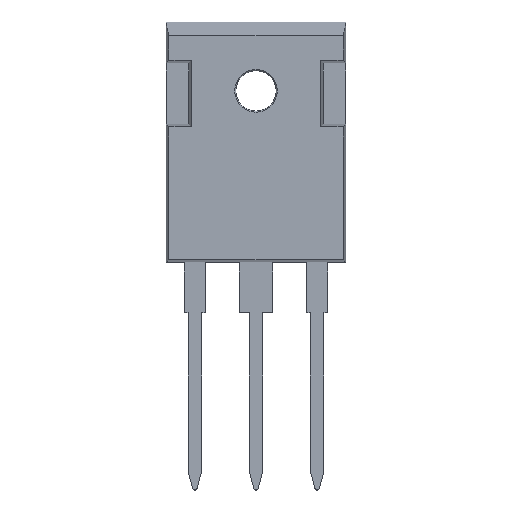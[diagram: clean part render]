
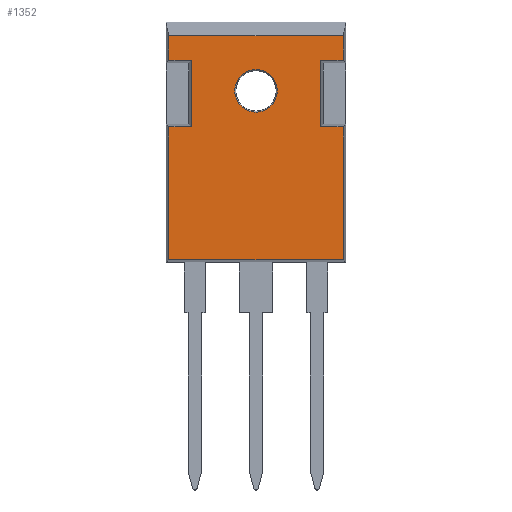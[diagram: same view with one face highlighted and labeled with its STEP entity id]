
A CAD part, top view. The second image highlights one B-rep face of the part: STEP entity #1352.
In plain terms, the highlighted planar face has unit normal (0, 0, 1).
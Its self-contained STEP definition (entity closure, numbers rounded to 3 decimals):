
#6 = EDGE_CURVE ( 'NONE', #1496, #2278, #1900, .T. ) ;
#116 = ORIENTED_EDGE ( 'NONE', *, *, #2493, .T. ) ;
#121 = DIRECTION ( 'NONE',  ( 0., 0., -1. ) ) ;
#122 = VECTOR ( 'NONE', #789, 1000. ) ;
#126 = LINE ( 'NONE', #2492, #2249 ) ;
#136 = CARTESIAN_POINT ( 'NONE',  ( 0., 19.81, 2.33 ) ) ;
#151 = LINE ( 'NONE', #2306, #1285 ) ;
#157 = CARTESIAN_POINT ( 'NONE',  ( 7.775, 16.588, 2.33 ) ) ;
#158 = CARTESIAN_POINT ( 'NONE',  ( 5.775, 22.532, 2.33 ) ) ;
#167 = DIRECTION ( 'NONE',  ( 0., -1., 0. ) ) ;
#186 = VECTOR ( 'NONE', #167, 1000. ) ;
#213 = CARTESIAN_POINT ( 'NONE',  ( 5.775, 16.588, 2.33 ) ) ;
#230 = CARTESIAN_POINT ( 'NONE',  ( -7.775, 22.532, 2.33 ) ) ;
#246 = FACE_BOUND ( 'NONE', #496, .T. ) ;
#254 = EDGE_CURVE ( 'NONE', #756, #2208, #126, .T. ) ;
#288 = VERTEX_POINT ( 'NONE', #1376 ) ;
#340 = ORIENTED_EDGE ( 'NONE', *, *, #1053, .T. ) ;
#344 = EDGE_LOOP ( 'NONE', ( #2809, #1343, #2244, #1671, #2104, #1473, #1572, #116, #1868, #1019, #340, #1004 ) ) ;
#355 = DIRECTION ( 'NONE',  ( 1., 0., 0. ) ) ;
#383 = CARTESIAN_POINT ( 'NONE',  ( -7.775, 0., 2.33 ) ) ;
#428 = EDGE_CURVE ( 'NONE', #2128, #822, #1020, .T. ) ;
#445 = EDGE_CURVE ( 'NONE', #1799, #2108, #1277, .T. ) ;
#455 = VECTOR ( 'NONE', #2508, 1000. ) ;
#471 = DIRECTION ( 'NONE',  ( -1., 0., 0. ) ) ;
#476 = CARTESIAN_POINT ( 'NONE',  ( 0., 0., 2.33 ) ) ;
#496 = EDGE_LOOP ( 'NONE', ( #1050, #2849 ) ) ;
#497 = VECTOR ( 'NONE', #1362, 1000. ) ;
#516 = EDGE_CURVE ( 'NONE', #1397, #1659, #606, .T. ) ;
#559 = CARTESIAN_POINT ( 'NONE',  ( -5.775, 16.588, 2.33 ) ) ;
#606 = LINE ( 'NONE', #621, #1029 ) ;
#609 = VECTOR ( 'NONE', #355, 1000. ) ;
#621 = CARTESIAN_POINT ( 'NONE',  ( 7.775, 0., 2.33 ) ) ;
#713 = CARTESIAN_POINT ( 'NONE',  ( -7.775, 4.727, 2.33 ) ) ;
#724 = VECTOR ( 'NONE', #1921, 1000. ) ;
#749 = LINE ( 'NONE', #1635, #455 ) ;
#756 = VERTEX_POINT ( 'NONE', #559 ) ;
#758 = DIRECTION ( 'NONE',  ( 1., 0., 0. ) ) ;
#778 = AXIS2_PLACEMENT_3D ( 'NONE', #136, #121, #2328 ) ;
#786 = CARTESIAN_POINT ( 'NONE',  ( -6.002, 22.532, 2.33 ) ) ;
#789 = DIRECTION ( 'NONE',  ( 0., 1., 0. ) ) ;
#822 = VERTEX_POINT ( 'NONE', #1201 ) ;
#922 = DIRECTION ( 'NONE',  ( 1., 0., 0. ) ) ;
#945 = CARTESIAN_POINT ( 'NONE',  ( -5.775, 16.815, 2.33 ) ) ;
#956 = VERTEX_POINT ( 'NONE', #157 ) ;
#996 = VECTOR ( 'NONE', #1899, 1000. ) ;
#1000 = CARTESIAN_POINT ( 'NONE',  ( 7.775, 22.532, 2.33 ) ) ;
#1004 = ORIENTED_EDGE ( 'NONE', *, *, #516, .T. ) ;
#1019 = ORIENTED_EDGE ( 'NONE', *, *, #6, .T. ) ;
#1020 = LINE ( 'NONE', #1259, #724 ) ;
#1025 = LINE ( 'NONE', #1958, #1483 ) ;
#1029 = VECTOR ( 'NONE', #1724, 1000. ) ;
#1050 = ORIENTED_EDGE ( 'NONE', *, *, #2816, .T. ) ;
#1053 = EDGE_CURVE ( 'NONE', #2278, #1397, #2112, .T. ) ;
#1127 = FACE_OUTER_BOUND ( 'NONE', #344, .T. ) ;
#1150 = CARTESIAN_POINT ( 'NONE',  ( 1.9, 19.81, 2.33 ) ) ;
#1201 = CARTESIAN_POINT ( 'NONE',  ( 7.775, 4.727, 2.33 ) ) ;
#1259 = CARTESIAN_POINT ( 'NONE',  ( 0., 4.727, 2.33 ) ) ;
#1277 = CIRCLE ( 'NONE', #2376, 1.9 ) ;
#1285 = VECTOR ( 'NONE', #2801, 1000. ) ;
#1343 = ORIENTED_EDGE ( 'NONE', *, *, #1785, .T. ) ;
#1352 = ADVANCED_FACE ( 'NONE', ( #246, #1127 ), #2020, .T. ) ;
#1362 = DIRECTION ( 'NONE',  ( 0., -1., 0. ) ) ;
#1369 = DIRECTION ( 'NONE',  ( 0., 0., 1. ) ) ;
#1376 = CARTESIAN_POINT ( 'NONE',  ( -5.775, 22.532, 2.33 ) ) ;
#1397 = VERTEX_POINT ( 'NONE', #1000 ) ;
#1429 = CARTESIAN_POINT ( 'NONE',  ( 8.002, 22.532, 2.33 ) ) ;
#1454 = EDGE_CURVE ( 'NONE', #956, #1496, #1025, .T. ) ;
#1465 = CARTESIAN_POINT ( 'NONE',  ( -1.9, 19.81, 2.33 ) ) ;
#1473 = ORIENTED_EDGE ( 'NONE', *, *, #1504, .T. ) ;
#1483 = VECTOR ( 'NONE', #1973, 1000. ) ;
#1496 = VERTEX_POINT ( 'NONE', #213 ) ;
#1504 = EDGE_CURVE ( 'NONE', #2208, #2128, #2362, .T. ) ;
#1563 = CARTESIAN_POINT ( 'NONE',  ( 7.775, 24.748, 2.33 ) ) ;
#1572 = ORIENTED_EDGE ( 'NONE', *, *, #428, .T. ) ;
#1635 = CARTESIAN_POINT ( 'NONE',  ( -7.775, 0., 2.33 ) ) ;
#1659 = VERTEX_POINT ( 'NONE', #1563 ) ;
#1671 = ORIENTED_EDGE ( 'NONE', *, *, #2606, .T. ) ;
#1681 = DIRECTION ( 'NONE',  ( 0., 0., -1. ) ) ;
#1724 = DIRECTION ( 'NONE',  ( 0., 1., 0. ) ) ;
#1732 = VERTEX_POINT ( 'NONE', #230 ) ;
#1785 = EDGE_CURVE ( 'NONE', #2416, #1732, #749, .T. ) ;
#1798 = VECTOR ( 'NONE', #2292, 1000. ) ;
#1799 = VERTEX_POINT ( 'NONE', #1465 ) ;
#1844 = CIRCLE ( 'NONE', #778, 1.9 ) ;
#1868 = ORIENTED_EDGE ( 'NONE', *, *, #1454, .T. ) ;
#1899 = DIRECTION ( 'NONE',  ( 0., 1., 0. ) ) ;
#1900 = LINE ( 'NONE', #2760, #122 ) ;
#1912 = LINE ( 'NONE', #2360, #996 ) ;
#1921 = DIRECTION ( 'NONE',  ( 1., 0., 0. ) ) ;
#1958 = CARTESIAN_POINT ( 'NONE',  ( 6.002, 16.588, 2.33 ) ) ;
#1973 = DIRECTION ( 'NONE',  ( -1., 0., 0. ) ) ;
#2020 = PLANE ( 'NONE',  #2453 ) ;
#2104 = ORIENTED_EDGE ( 'NONE', *, *, #254, .T. ) ;
#2108 = VERTEX_POINT ( 'NONE', #1150 ) ;
#2112 = LINE ( 'NONE', #1429, #609 ) ;
#2128 = VERTEX_POINT ( 'NONE', #713 ) ;
#2208 = VERTEX_POINT ( 'NONE', #2355 ) ;
#2244 = ORIENTED_EDGE ( 'NONE', *, *, #2853, .T. ) ;
#2249 = VECTOR ( 'NONE', #471, 1000. ) ;
#2278 = VERTEX_POINT ( 'NONE', #158 ) ;
#2292 = DIRECTION ( 'NONE',  ( 1., 0., 0. ) ) ;
#2300 = CARTESIAN_POINT ( 'NONE',  ( -7.775, 24.748, 2.33 ) ) ;
#2306 = CARTESIAN_POINT ( 'NONE',  ( -8.003, 24.748, 2.33 ) ) ;
#2328 = DIRECTION ( 'NONE',  ( 1., 0., 0. ) ) ;
#2355 = CARTESIAN_POINT ( 'NONE',  ( -7.775, 16.588, 2.33 ) ) ;
#2360 = CARTESIAN_POINT ( 'NONE',  ( 7.775, 0., 2.33 ) ) ;
#2362 = LINE ( 'NONE', #383, #186 ) ;
#2376 = AXIS2_PLACEMENT_3D ( 'NONE', #2727, #1681, #758 ) ;
#2416 = VERTEX_POINT ( 'NONE', #2300 ) ;
#2453 = AXIS2_PLACEMENT_3D ( 'NONE', #476, #1369, #922 ) ;
#2492 = CARTESIAN_POINT ( 'NONE',  ( -8.003, 16.588, 2.33 ) ) ;
#2493 = EDGE_CURVE ( 'NONE', #822, #956, #1912, .T. ) ;
#2506 = LINE ( 'NONE', #786, #1798 ) ;
#2508 = DIRECTION ( 'NONE',  ( 0., -1., 0. ) ) ;
#2526 = EDGE_CURVE ( 'NONE', #2416, #1659, #151, .T. ) ;
#2606 = EDGE_CURVE ( 'NONE', #288, #756, #2677, .T. ) ;
#2677 = LINE ( 'NONE', #945, #497 ) ;
#2727 = CARTESIAN_POINT ( 'NONE',  ( 0., 19.81, 2.33 ) ) ;
#2760 = CARTESIAN_POINT ( 'NONE',  ( 5.775, 22.305, 2.33 ) ) ;
#2801 = DIRECTION ( 'NONE',  ( 1., 0., 0. ) ) ;
#2809 = ORIENTED_EDGE ( 'NONE', *, *, #2526, .F. ) ;
#2816 = EDGE_CURVE ( 'NONE', #2108, #1799, #1844, .T. ) ;
#2849 = ORIENTED_EDGE ( 'NONE', *, *, #445, .T. ) ;
#2853 = EDGE_CURVE ( 'NONE', #1732, #288, #2506, .T. ) ;
